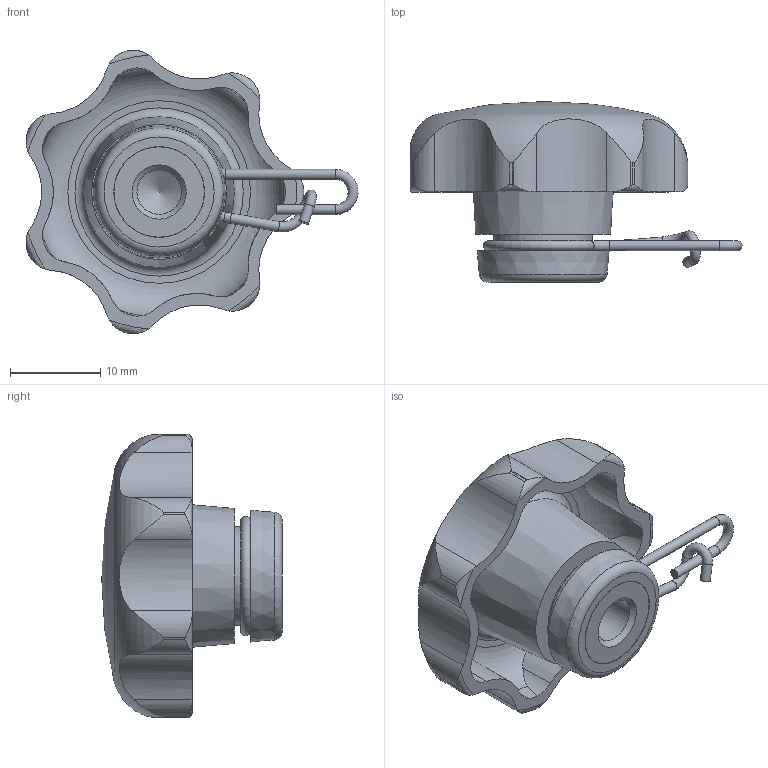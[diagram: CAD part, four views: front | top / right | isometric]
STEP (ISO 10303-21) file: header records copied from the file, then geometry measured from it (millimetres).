
FILE_DESCRIPTION( ( 'STEP AP203' ), '1' );
FILE_NAME( 'C:/Temp/Ganter_Step_05_03_2020/data/2_2/gn_6336_13/gn_6336_13_1/Star knob GN 6336.13-32-M6-A.stp', '2020-03-05T12:10:36', ( 'License CC BY-ND 4.0' ), ( 'CADENAS' ), ' ', 'PARTsolutions', ' ' );
FILE_SCHEMA( ( 'CONFIG_CONTROL_DESIGN' ) );
Length unit declared in the file: millimetre
Products named in the file (1): _Star knob GN 6336.13-32-M6-A
Bounding box: 36.73 x 20 x 31.36 mm (x, y, z)
Volume: 5418.2 mm3; surface area: 3742.9 mm2
Topology: 1 solids, 1 shells, 103 faces, 280 edges, 182 vertices
Faces by surface type: cylinder 63, torus 18, cone 12, plane 9, sphere 1
Full cylindrical faces by diameter (mm): 1.1 x4, 1.11 x1, 4.917 x1, 9.99 x1, 10.05 x1, 10.9 x1
Entity records: 3993 total; most frequent: CARTESIAN_POINT 1570, ORIENTED_EDGE 490, DIRECTION 477, EDGE_CURVE 245, AXIS2_PLACEMENT_3D 215, VERTEX_POINT 176, EDGE_LOOP 133, FACE_OUTER_BOUND 122
